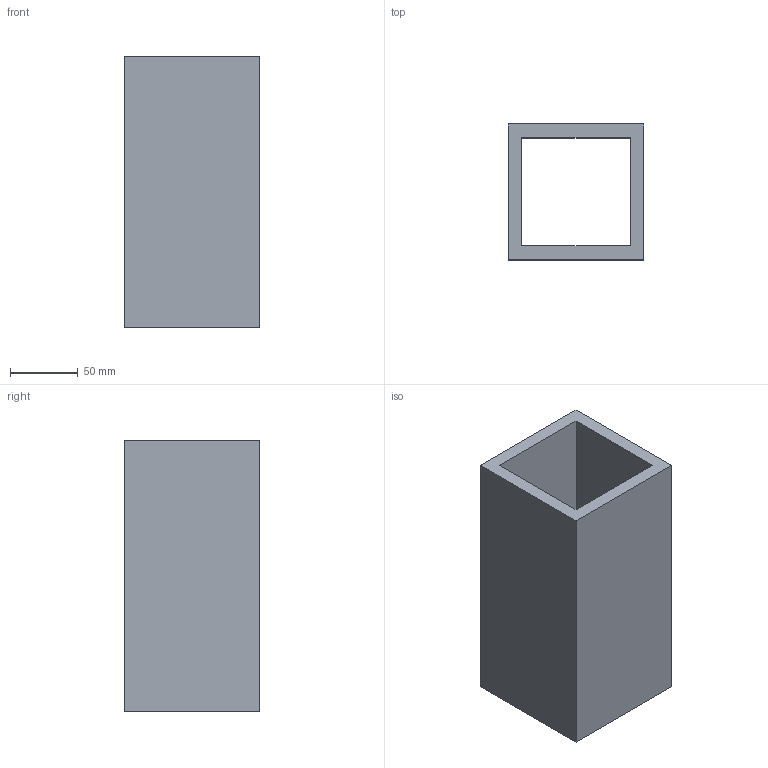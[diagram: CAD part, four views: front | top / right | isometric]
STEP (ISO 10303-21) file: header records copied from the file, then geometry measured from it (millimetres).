
FILE_DESCRIPTION(('Open CASCADE Model'),'2;1');
FILE_NAME('Open CASCADE Shape Model','2026-10-15T15:10:05',('Author'),( 'Open CASCADE'),'Open CASCADE STEP processor 8.0','Open CASCADE 8.0' ,'Unknown');
FILE_SCHEMA(('AUTOMOTIVE_DESIGN { 1 0 10303 214 1 1 1 1 }'));
Length unit declared in the file: millimetre
Products named in the file (1): TC04_POSTE_SHS100x100x10_S355_L200_P05 138
Bounding box: 100 x 100 x 200 mm (x, y, z)
Volume: 720000 mm3; surface area: 151200 mm2
Topology: 1 solids, 1 shells, 10 faces, 24 edges, 16 vertices
Faces by surface type: plane 10
Entity records: 614 total; most frequent: CARTESIAN_POINT 99, DIRECTION 94, LINE 72, VECTOR 72, ORIENTED_EDGE 48, PCURVE 48, DEFINITIONAL_REPRESENTATION 48, EDGE_CURVE 24
